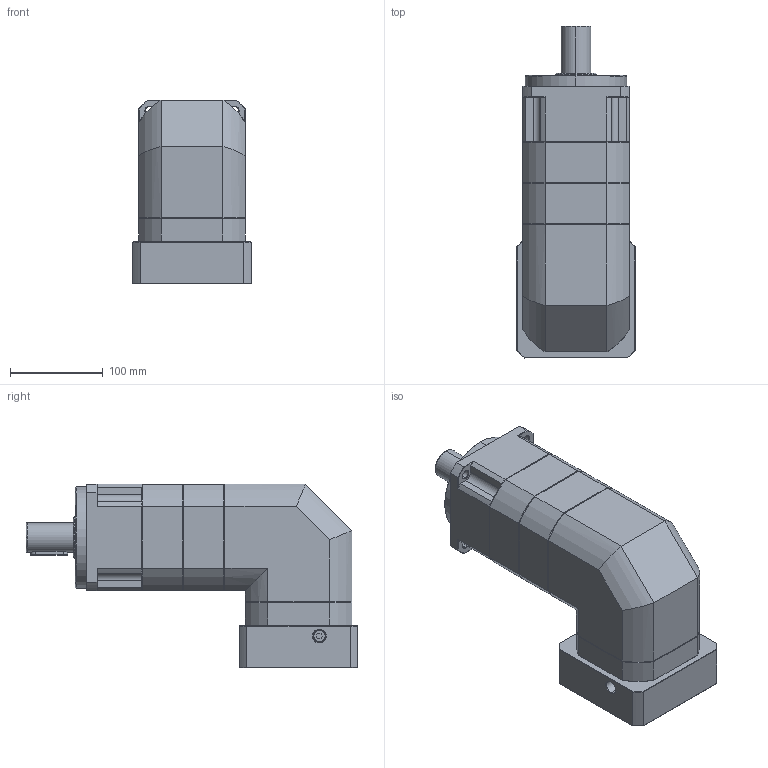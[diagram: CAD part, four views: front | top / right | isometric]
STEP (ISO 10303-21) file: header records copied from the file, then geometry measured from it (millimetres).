
FILE_DESCRIPTION (( 'STEP AP214' ), '1' );
FILE_NAME ('ZPBR115-D32-L3-P1-28-110-145-M8.step', '2024-06-29T08:10:56', ( 'Windows 蚚誧' ), ( 'Organization' ), 'SwSTEP 2.0', 'SolidWorks 2016', '' );
FILE_SCHEMA (( 'AUTOMOTIVE_DESIGN' ));
Length unit declared in the file: millimetre
Products named in the file (1): ZPBR115-D32-L3-P1-28-110-145-M8
Bounding box: 128 x 358 x 198.2 mm (x, y, z)
Surface area: 236292.4 mm2 (no closed solid volume)
Topology: 0 solids, 29 shells, 1868 faces, 5009 edges, 3201 vertices
Faces by surface type: plane 953, bspline 381, cone 294, cylinder 240
Full cylindrical faces by diameter (mm): 10.2 x1
Entity records: 100534 total; most frequent: CARTESIAN_POINT 49558, ORIENTED_EDGE 9988, DIRECTION 7684, EDGE_CURVE 5003, LINE 3220, VECTOR 3220, VERTEX_POINT 3199, AXIS2_PLACEMENT_3D 2232
